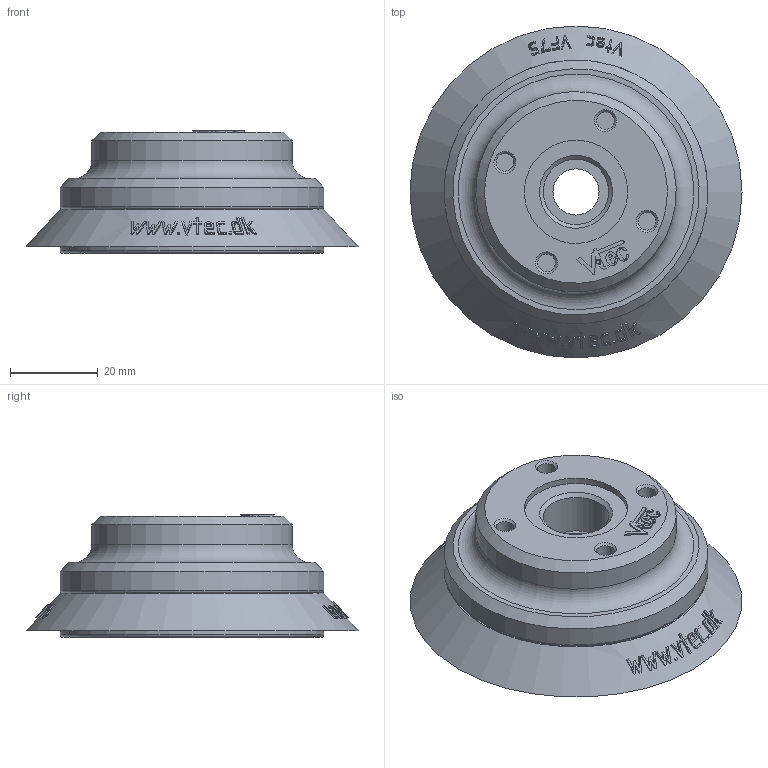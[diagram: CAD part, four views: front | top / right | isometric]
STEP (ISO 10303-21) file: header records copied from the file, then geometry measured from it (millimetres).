
FILE_DESCRIPTION( ( 'STEP AP203' ), '1' );
FILE_NAME( 'C:/Documents and Settings/Owner/官帕 拳搁/3D/Vacuum Pad/VF series/VF75-38F.stp', '2006-04-25T04:56:59', ( ' ' ), ( ' ' ), 'XStep 1.0', ' ', ' ' );
FILE_SCHEMA( ( 'CONFIG_CONTROL_DESIGN) ( )' ) );
Length unit declared in the file: metre
Products named in the file (3): Assem1; 1; 2
Bounding box: 75.5 x 75.5 x 27.8 mm (x, y, z)
Volume: 95555 mm3; surface area: 43524.9 mm2
Topology: 4 solids, 4 shells, 680 faces, 1742 edges, 1156 vertices
Faces by surface type: bspline 324, plane 142, cylinder 138, cone 64, torus 8, extrusion 4
Full cylindrical faces by diameter (mm): 0.791 x2, 4 x16, 6 x8, 10.5 x2, 14.9 x2, 15 x2, 23.5 x2, 45.6 x2, 55 x4, 60 x2
Entity records: 15964 total; most frequent: CARTESIAN_POINT 8771, ORIENTED_EDGE 1650, DIRECTION 1001, EDGE_CURVE 825, VERTEX_POINT 567, EDGE_LOOP 430, FACE_OUTER_BOUND 365, B_SPLINE_CURVE_WITH_KNOTS 363
